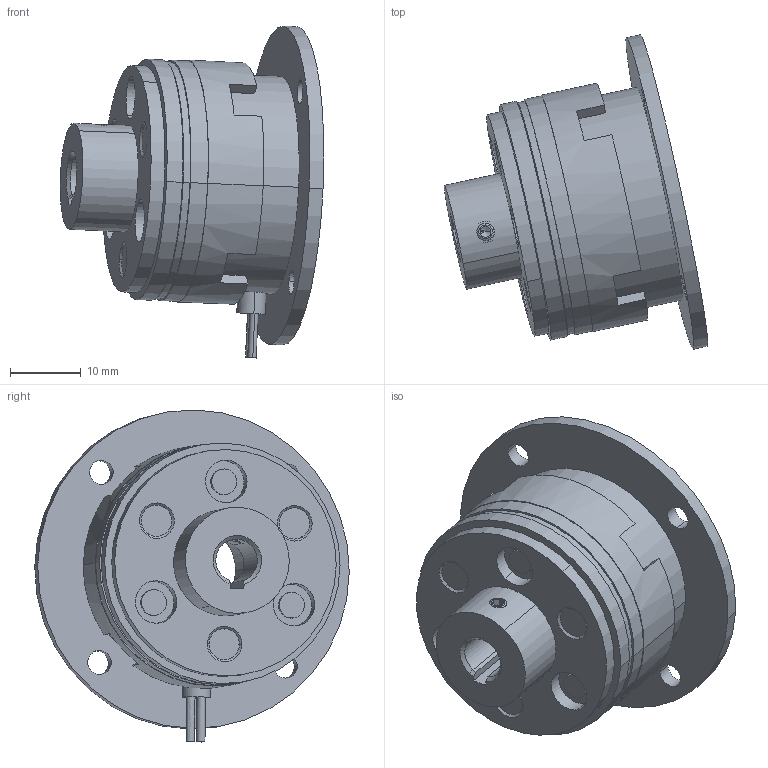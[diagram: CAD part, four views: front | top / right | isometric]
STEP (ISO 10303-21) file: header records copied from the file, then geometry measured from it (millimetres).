
FILE_DESCRIPTION((''),'2;1');
FILE_NAME('G:\Konstruktion\Datenkonvertierung\step\14.110.03.101.stp','2004-01-30T09:06:06',('schöttelndreier'),(''),'Autodesk Inventor 8','Autodesk Inventor 8','');
FILE_SCHEMA(('AUTOMOTIVE_DESIGN { 1 0 10303 214 1 1 1 1 }'));
Length unit declared in the file: millimetre
Products named in the file (17): 14.110.03.101; 14.110.03.100-001 dxf; 14.110.03.997-001 dxf; Reibbelag_03 dxf; 14.110.03.992-001 dxf; 14.100.03.100-001 dxf; 14.100.03.991-001 dxf; 14.100.03.994-100 dxf; Spule_03 dxf; 14.100.03.001-001; 14.100.03.003-001; 14.100.03.993-001; 14.102.03-53.002; Niet; 14.100.03.993-200; Niet2; DIN 916  (Regelgewinde) M3  x  4
Assembly tree (20 placements, depth 4):
  14.110.03.101
    14.110.03.100-001 dxf
      14.110.03.997-001 dxf
        Reibbelag_03 dxf
        14.110.03.992-001 dxf
      14.100.03.100-001 dxf
        14.100.03.991-001 dxf
        14.100.03.994-100 dxf
        Spule_03 dxf
    14.100.03.001-001
      14.100.03.003-001
        14.100.03.993-001
        14.102.03-53.002
        Niet  x3
      14.100.03.993-200
      Niet2  x3
      DIN 916  (Regelgewinde) M3  x  4
Bounding box: 37.23 x 44.42 x 46.89 mm (x, y, z)
Volume: 16904.8 mm3; surface area: 20182 mm2
Topology: 15 solids, 15 shells, 300 faces, 712 edges, 457 vertices
Faces by surface type: cylinder 159, plane 85, cone 49, bspline 5, torus 2
Entity records: 8806 total; most frequent: CARTESIAN_POINT 1732, DIRECTION 1545, ORIENTED_EDGE 1288, EDGE_CURVE 644, AXIS2_PLACEMENT_3D 643, VERTEX_POINT 417, EDGE_LOOP 349, CIRCLE 347
